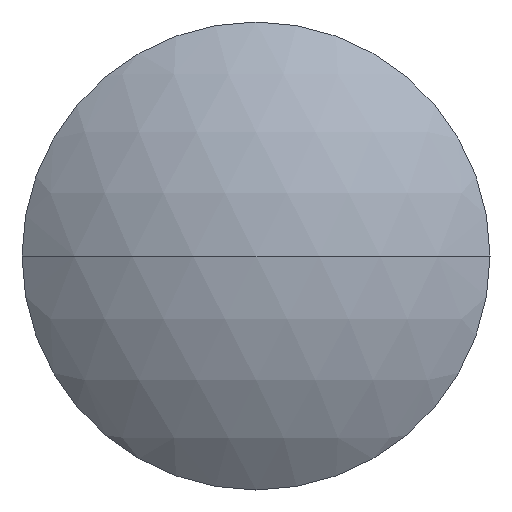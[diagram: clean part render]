
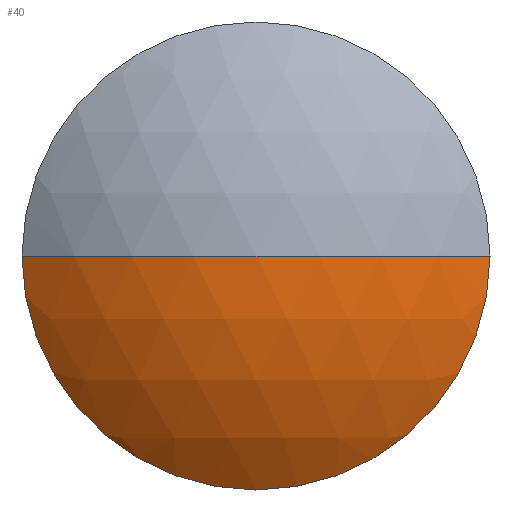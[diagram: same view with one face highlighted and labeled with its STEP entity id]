
A CAD part, left-side view. The second image highlights one B-rep face of the part: STEP entity #40.
In plain terms, the highlighted spherical face has radius 26.66 mm.
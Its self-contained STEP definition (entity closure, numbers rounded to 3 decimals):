
#12 = CARTESIAN_POINT ( 'NONE',  ( 18.66, 0., 0. ) ) ;
#13 = AXIS2_PLACEMENT_3D ( 'NONE', #74, #293, #322 ) ;
#34 = ORIENTED_EDGE ( 'NONE', *, *, #330, .T. ) ;
#40 = ADVANCED_FACE ( 'NONE', ( #285 ), #153, .T. ) ;
#52 = VERTEX_POINT ( 'NONE', #228 ) ;
#58 = AXIS2_PLACEMENT_3D ( 'NONE', #291, #295, #133 ) ;
#63 = ORIENTED_EDGE ( 'NONE', *, *, #206, .T. ) ;
#74 = CARTESIAN_POINT ( 'NONE',  ( -2., 0., 0. ) ) ;
#106 = DIRECTION ( 'NONE',  ( 0., 0., 1. ) ) ;
#110 = CARTESIAN_POINT ( 'NONE',  ( -8., 0., 0. ) ) ;
#116 = ORIENTED_EDGE ( 'NONE', *, *, #194, .F. ) ;
#118 = EDGE_LOOP ( 'NONE', ( #144, #34, #63, #116 ) ) ;
#132 = DIRECTION ( 'NONE',  ( 0., 0., -1. ) ) ;
#133 = DIRECTION ( 'NONE',  ( 0., 0., 1. ) ) ;
#144 = ORIENTED_EDGE ( 'NONE', *, *, #257, .T. ) ;
#153 = SPHERICAL_SURFACE ( 'NONE', #296, 26.66 ) ;
#158 = CARTESIAN_POINT ( 'NONE',  ( 18.66, 0., 0. ) ) ;
#166 = CIRCLE ( 'NONE', #13, 16.85 ) ;
#168 = VERTEX_POINT ( 'NONE', #209 ) ;
#190 = VERTEX_POINT ( 'NONE', #110 ) ;
#194 = EDGE_CURVE ( 'NONE', #168, #190, #240, .T. ) ;
#205 = DIRECTION ( 'NONE',  ( 0., 1., 0. ) ) ;
#206 = EDGE_CURVE ( 'NONE', #308, #190, #345, .T. ) ;
#209 = CARTESIAN_POINT ( 'NONE',  ( -2., 16.85, 0. ) ) ;
#212 = CIRCLE ( 'NONE', #58, 16.85 ) ;
#228 = CARTESIAN_POINT ( 'NONE',  ( -2., 0., -16.85 ) ) ;
#240 = CIRCLE ( 'NONE', #261, 26.66 ) ;
#256 = AXIS2_PLACEMENT_3D ( 'NONE', #318, #132, #317 ) ;
#257 = EDGE_CURVE ( 'NONE', #168, #52, #166, .T. ) ;
#261 = AXIS2_PLACEMENT_3D ( 'NONE', #158, #106, #263 ) ;
#263 = DIRECTION ( 'NONE',  ( 1., 0., 0. ) ) ;
#285 = FACE_OUTER_BOUND ( 'NONE', #118, .T. ) ;
#291 = CARTESIAN_POINT ( 'NONE',  ( -2., 0., 0. ) ) ;
#293 = DIRECTION ( 'NONE',  ( -1., 0., 0. ) ) ;
#295 = DIRECTION ( 'NONE',  ( -1., 0., 0. ) ) ;
#296 = AXIS2_PLACEMENT_3D ( 'NONE', #12, #336, #205 ) ;
#308 = VERTEX_POINT ( 'NONE', #316 ) ;
#316 = CARTESIAN_POINT ( 'NONE',  ( -2., -16.85, 0. ) ) ;
#317 = DIRECTION ( 'NONE',  ( 0., 1., 0. ) ) ;
#318 = CARTESIAN_POINT ( 'NONE',  ( 18.66, 0., 0. ) ) ;
#322 = DIRECTION ( 'NONE',  ( 0., 0., 1. ) ) ;
#330 = EDGE_CURVE ( 'NONE', #52, #308, #212, .T. ) ;
#336 = DIRECTION ( 'NONE',  ( 0., 0., -1. ) ) ;
#345 = CIRCLE ( 'NONE', #256, 26.66 ) ;
